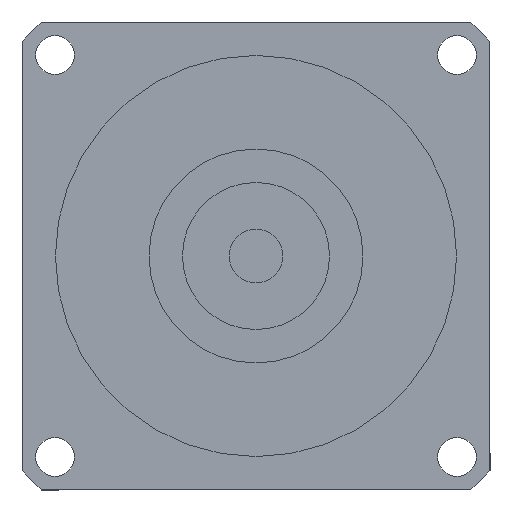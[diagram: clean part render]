
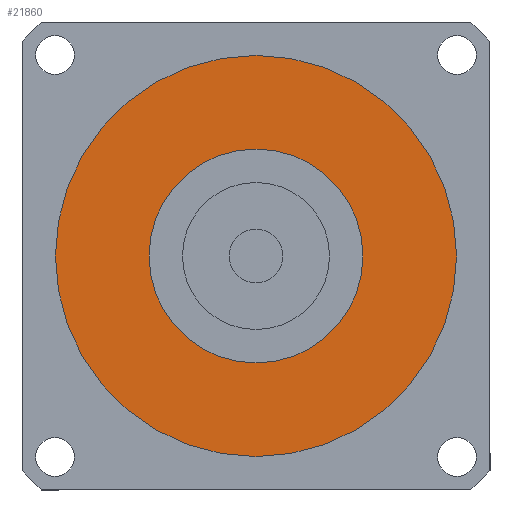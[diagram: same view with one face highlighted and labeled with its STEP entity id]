
A CAD part, left-side view. The second image highlights one B-rep face of the part: STEP entity #21860.
In plain terms, the highlighted planar face has unit normal (-1, 0, 0) as drawn and (0, 0, -1) by its records, which use the part's own axes.
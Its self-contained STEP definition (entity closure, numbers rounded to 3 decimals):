
#21280=CARTESIAN_POINT('',(-30.,0.,-56.5));
#21290=VERTEX_POINT('',#21280);
#21380=CARTESIAN_POINT('',(30.,0.,-56.5));
#21390=VERTEX_POINT('',#21380);
#21420=CARTESIAN_POINT('',(0.,0.,
-56.5));
#21430=DIRECTION('',(0.,0.,1.));
#21440=DIRECTION('',(0.,-1.,0.));
#21450=AXIS2_PLACEMENT_3D('',#21420,#21430,#21440);
#21460=CIRCLE('',#21450,30.);
#21470=CARTESIAN_POINT('',(0.,-30.,-56.5));
#21480=VERTEX_POINT('',#21470);
#21490=EDGE_CURVE('',#21480,#21390,#21460,.T.);
#21510=EDGE_CURVE('',#21290,#21480,#21460,.T.);
#21560=CARTESIAN_POINT('',(0.,0.,
-56.5));
#21570=DIRECTION('',(0.,0.,1.));
#21580=DIRECTION('',(-1.,0.,0.));
#21590=AXIS2_PLACEMENT_3D('',#21560,#21570,#21580);
#21600=PLANE('',#21590);
#21610=ORIENTED_EDGE('',*,*,#21490,.F.);
#21620=EDGE_CURVE('',#21390,#21290,#21460,.T.);
#21630=ORIENTED_EDGE('',*,*,#21620,.F.);
#21640=ORIENTED_EDGE('',*,*,#21510,.F.);
#21650=EDGE_LOOP('',(#21640,#21630,#21610));
#21660=FACE_OUTER_BOUND('',#21650,.T.);
#21670=CARTESIAN_POINT('',(0.,0.,
-56.5));
#21680=DIRECTION('',(0.,0.,1.));
#21690=DIRECTION('',(0.,-1.,0.));
#21700=AXIS2_PLACEMENT_3D('',#21670,#21680,#21690);
#21710=CIRCLE('',#21700,16.);
#21720=CARTESIAN_POINT('',(16.,0.,-56.5));
#21730=VERTEX_POINT('',#21720);
#21740=CARTESIAN_POINT('',(-16.,0.,-56.5));
#21750=VERTEX_POINT('',#21740);
#21760=EDGE_CURVE('',#21730,#21750,#21710,.T.);
#21770=ORIENTED_EDGE('',*,*,#21760,.T.);
#21780=CARTESIAN_POINT('',(0.,-16.,-56.5));
#21790=VERTEX_POINT('',#21780);
#21800=EDGE_CURVE('',#21790,#21730,#21710,.T.);
#21810=ORIENTED_EDGE('',*,*,#21800,.T.);
#21820=EDGE_CURVE('',#21750,#21790,#21710,.T.);
#21830=ORIENTED_EDGE('',*,*,#21820,.T.);
#21840=EDGE_LOOP('',(#21830,#21810,#21770));
#21850=FACE_BOUND('',#21840,.T.);
#21860=ADVANCED_FACE('',(#21660,#21850),#21600,.F.);
